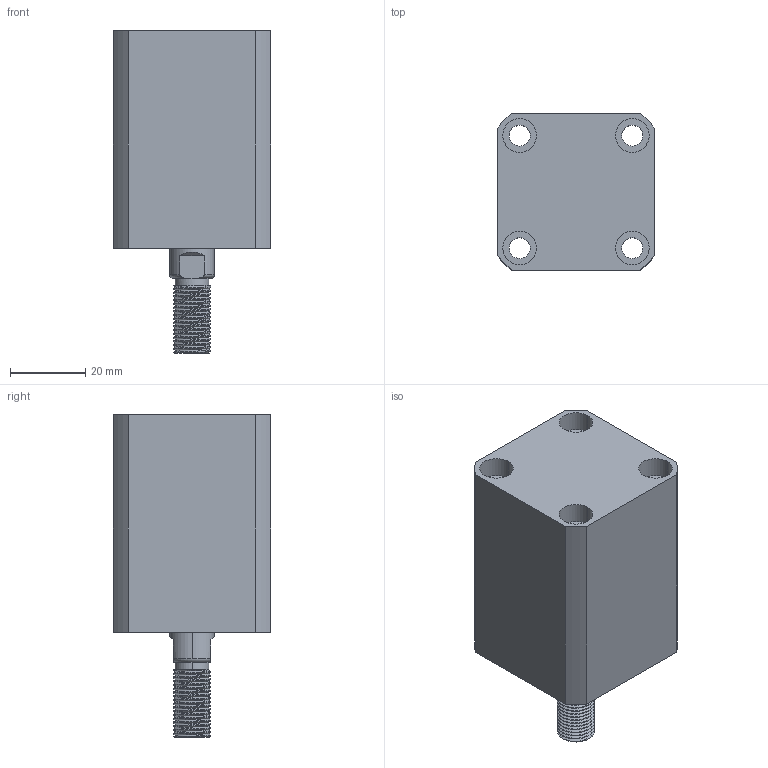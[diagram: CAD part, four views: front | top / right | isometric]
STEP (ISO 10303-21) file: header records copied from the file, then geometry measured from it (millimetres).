
FILE_DESCRIPTION (( 'STEP AP214' ), '1' );
FILE_NAME ('chtb-sd20x15w_asm.STEP', '2018-05-16T09:17:28', ( 'Windows' ), ( 'Microsoft' ), 'SwSTEP 2.0', 'SolidWorks 2015', '' );
FILE_SCHEMA (( 'AUTOMOTIVE_DESIGN' ));
Length unit declared in the file: millimetre
Products named in the file (4): QG; CHTB-SD20X15WHSG; CHTB-SD20X15NBT; chtb-sd20x15w_asm
Assembly tree (3 placements, depth 2):
  chtb-sd20x15w_asm
    CHTB-SD20X15NBT
    CHTB-SD20X15WHSG
    QG
Bounding box: 42 x 42 x 86 mm (x, y, z)
Volume: 89471.8 mm3; surface area: 30227.7 mm2
Topology: 3 solids, 3 shells, 234 faces, 624 edges, 415 vertices
Faces by surface type: cylinder 139, plane 40, torus 25, bspline 21, cone 9
Entity records: 13734 total; most frequent: CARTESIAN_POINT 8172, ORIENTED_EDGE 1240, DIRECTION 1039, EDGE_CURVE 620, AXIS2_PLACEMENT_3D 431, VERTEX_POINT 415, EDGE_LOOP 271, FACE_OUTER_BOUND 234
